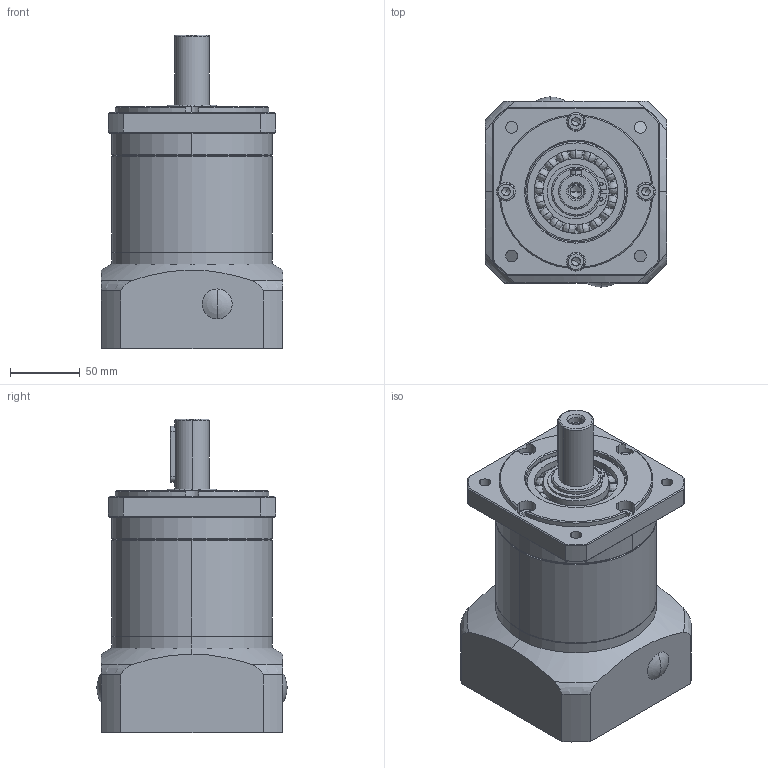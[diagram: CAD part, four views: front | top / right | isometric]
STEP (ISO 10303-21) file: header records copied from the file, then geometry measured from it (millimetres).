
FILE_DESCRIPTION (( 'STEP AP214' ), '1' );
FILE_NAME ('PF120L2-110-24-M8-145.STEP', '2020-09-10T06:00:56', ( '微软用户' ), ( '微软中国' ), 'SwSTEP 2.0', 'SolidWorks 2014', '' );
FILE_SCHEMA (( 'AUTOMOTIVE_DESIGN' ));
Length unit declared in the file: millimetre
Products named in the file (91): 黑裔15; 謗撰囀喘謫84; O形圈2.5X72; Circlips for holes--Type A GB_GB_CONNECTING_PIECE_RING_RRH 72; Deep groove ball bearings GB_Rolling bearings 6207 GB 276-94; 夹头输入轴24; Circlips for shaft--Type B GB_GB_CONNECTING_PIECE_RINGS_CSB 35; 怮栠謫12; 路燭菜え25X82.5; 俴陎殤8; 怮栠謫21-5; 幗渀粣創13.513X18.513; 苤菜え27X13.6; 俴陎粣13.513X26; 俴陎謫35; す瑩怀堤粣5; 俴陎謫31-5; Parallel pins Unhardening Steel GB_GB_CONNECTING_PIECE_PIN_PPUS 6X14; Hexagon socket head cap screws GB_GB_FSTENER_SCREWS_HSHCS M6X20-N; Spring lock washers--Normal type GB_GB_FASTENER_WASHER_SW 8; Hexagon socket head cap screws GB_GB_FASTENER_SCREWS_HSHCS M8X50-N; Hexagon socket head cap screws GB_GB_FASTENER_SCREWS_HSHCS M8X40-N; 120源怀堤傷裔; 130输入端盖; PF120L2-110-24-M8-145; Plain parallel keys_GB_CONNECTING_PIECE_KEYS_CSK 8X40
Assembly tree (65 placements, depth 2):
  黑裔15
  PF120L2-110-24-M8-145
    謗撰囀喘謫84
    O形圈2.5X72  x2
    Circlips for holes--Type A GB_GB_CONNECTING_PIECE_RING_RRH 72  x2
    Deep groove ball bearings GB_Rolling bearings 6207 GB 276-94  x3
    夹头输入轴24
    Circlips for shaft--Type B GB_GB_CONNECTING_PIECE_RINGS_CSB 35  x2
    怮栠謫12
    路燭菜え25X82.5  x2
    俴陎殤8
    怮栠謫21-5
    幗渀粣創13.513X18.513  x6
    苤菜え27X13.6  x6
    俴陎粣13.513X26  x6
    俴陎謫35  x3
    す瑩怀堤粣5
    俴陎謫31-5  x3
    Parallel pins Unhardening Steel GB_GB_CONNECTING_PIECE_PIN_PPUS 6X14
    Plain parallel keys_GB_CONNECTING_PIECE_KEYS_CSK 8X40
    黑裔15  x2
    Hexagon socket head cap screws GB_GB_FSTENER_SCREWS_HSHCS M6X20-N  x2
    Spring lock washers--Normal type GB_GB_FASTENER_WASHER_SW 8  x8
    Hexagon socket head cap screws GB_GB_FASTENER_SCREWS_HSHCS M8X50-N  x4
    Hexagon socket head cap screws GB_GB_FASTENER_SCREWS_HSHCS M8X40-N  x4
    120源怀堤傷裔
    130输入端盖
  謗撰囀喘謫84
  O形圈2.5X72
  Circlips for holes--Type A GB_GB_CONNECTING_PIECE_RING_RRH 72
Bounding box: 130 x 136 x 224 mm (x, y, z)
Volume: 1711109.2 mm3; surface area: 423521.8 mm2
Topology: 65 solids, 65 shells, 1473 faces, 4211 edges, 2587 vertices
Faces by surface type: cylinder 519, plane 398, bspline 344, cone 202, torus 10
Entity records: 29967 total; most frequent: CARTESIAN_POINT 9046, DIRECTION 4013, ORIENTED_EDGE 3948, EDGE_CURVE 1974, AXIS2_PLACEMENT_3D 1687, VERTEX_POINT 1287, CIRCLE 974, EDGE_LOOP 901
